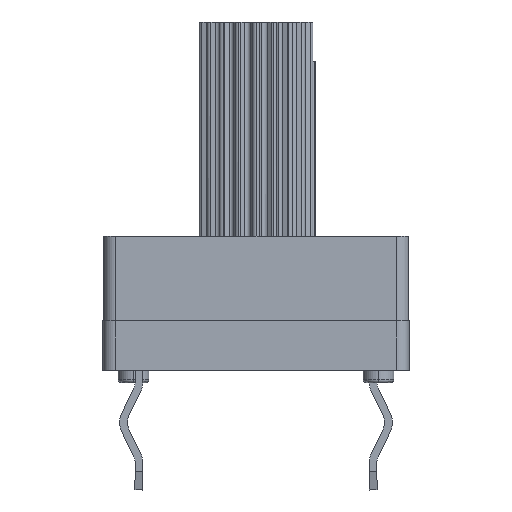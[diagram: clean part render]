
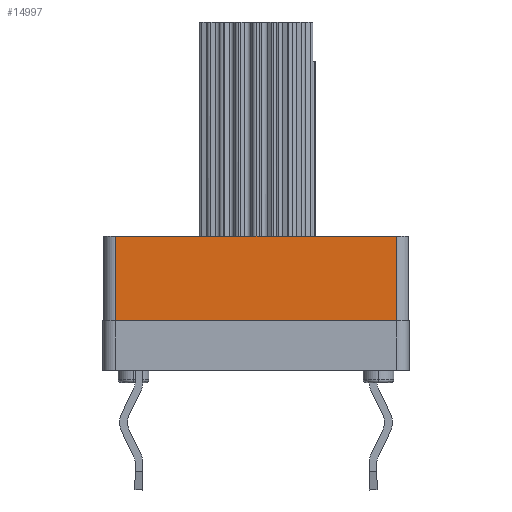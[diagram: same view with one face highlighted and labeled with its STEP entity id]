
A CAD part, left-side view. The second image highlights one B-rep face of the part: STEP entity #14997.
In plain terms, the highlighted planar face has unit normal (-1, 0, 0).
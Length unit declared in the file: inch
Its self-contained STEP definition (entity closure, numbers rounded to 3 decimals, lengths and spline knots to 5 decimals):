
#651 = VERTEX_POINT ( 'NONE', #12958 ) ;
#5469 = DIRECTION ( 'NONE',  ( 0., 1., 0. ) ) ;
#8709 = EDGE_CURVE ( 'NONE', #30952, #21802, #34026, .T. ) ;
#9388 = EDGE_LOOP ( 'NONE', ( #26078, #31222, #33940, #9736 ) ) ;
#9736 = ORIENTED_EDGE ( 'NONE', *, *, #15921, .T. ) ;
#10083 = VECTOR ( 'NONE', #23510, 39.37008 ) ;
#12958 = CARTESIAN_POINT ( 'NONE',  ( -0.19587, 0.18012, 0. ) ) ;
#14450 = LINE ( 'NONE', #28600, #28818 ) ;
#14997 = ADVANCED_FACE ( 'NONE', ( #36578 ), #25850, .F. ) ;
#14999 = CARTESIAN_POINT ( 'NONE',  ( -0.19587, -0.18012, 0.10866 ) ) ;
#15921 = EDGE_CURVE ( 'NONE', #30952, #651, #14450, .T. ) ;
#16171 = CARTESIAN_POINT ( 'NONE',  ( -0.19587, 0.19587, 0.10866 ) ) ;
#16714 = AXIS2_PLACEMENT_3D ( 'NONE', #17207, #34416, #5469 ) ;
#17207 = CARTESIAN_POINT ( 'NONE',  ( -0.19587, 0.19587, 0.10866 ) ) ;
#17676 = VERTEX_POINT ( 'NONE', #23301 ) ;
#18285 = VECTOR ( 'NONE', #25349, 39.37008 ) ;
#21802 = VERTEX_POINT ( 'NONE', #25243 ) ;
#22291 = LINE ( 'NONE', #27497, #18285 ) ;
#23301 = CARTESIAN_POINT ( 'NONE',  ( -0.19587, -0.18012, 0. ) ) ;
#23510 = DIRECTION ( 'NONE',  ( 0., 0., 1. ) ) ;
#24431 = LINE ( 'NONE', #14999, #10083 ) ;
#25243 = CARTESIAN_POINT ( 'NONE',  ( -0.19587, -0.18012, 0.10866 ) ) ;
#25349 = DIRECTION ( 'NONE',  ( 0., -1., 0. ) ) ;
#25850 = PLANE ( 'NONE',  #16714 ) ;
#26078 = ORIENTED_EDGE ( 'NONE', *, *, #34977, .T. ) ;
#26795 = EDGE_CURVE ( 'NONE', #17676, #21802, #24431, .T. ) ;
#27497 = CARTESIAN_POINT ( 'NONE',  ( -0.19587, 0.19587, 0. ) ) ;
#27719 = VECTOR ( 'NONE', #31606, 39.37008 ) ;
#28600 = CARTESIAN_POINT ( 'NONE',  ( -0.19587, 0.18012, 0.10866 ) ) ;
#28818 = VECTOR ( 'NONE', #31501, 39.37008 ) ;
#30952 = VERTEX_POINT ( 'NONE', #37069 ) ;
#31222 = ORIENTED_EDGE ( 'NONE', *, *, #26795, .T. ) ;
#31501 = DIRECTION ( 'NONE',  ( 0., 0., -1. ) ) ;
#31606 = DIRECTION ( 'NONE',  ( 0., -1., 0. ) ) ;
#33940 = ORIENTED_EDGE ( 'NONE', *, *, #8709, .F. ) ;
#34026 = LINE ( 'NONE', #16171, #27719 ) ;
#34416 = DIRECTION ( 'NONE',  ( 1., 0., 0. ) ) ;
#34977 = EDGE_CURVE ( 'NONE', #651, #17676, #22291, .T. ) ;
#36578 = FACE_OUTER_BOUND ( 'NONE', #9388, .T. ) ;
#37069 = CARTESIAN_POINT ( 'NONE',  ( -0.19587, 0.18012, 0.10866 ) ) ;
